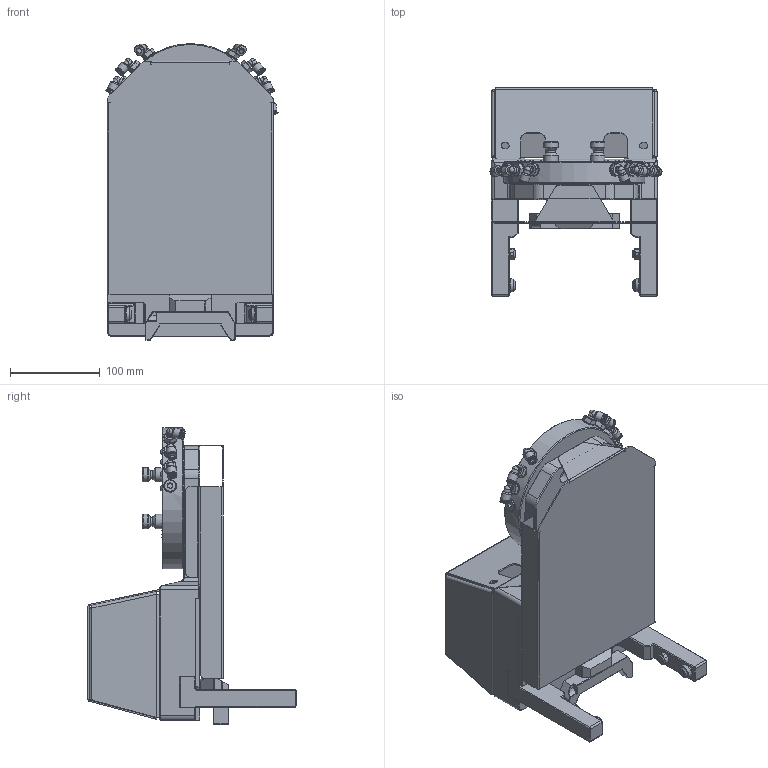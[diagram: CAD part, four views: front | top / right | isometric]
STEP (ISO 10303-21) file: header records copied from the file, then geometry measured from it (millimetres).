
FILE_DESCRIPTION (( 'STEP AP214' ), '1' );
FILE_NAME ('64855.STEP', '2025-09-26T11:46:03', ( '' ), ( '' ), 'SwSTEP 2.0', 'SolidWorks 2021', '' );
FILE_SCHEMA (( 'AUTOMOTIVE_DESIGN' ));
Length unit declared in the file: millimetre
Products named in the file (1): 64855
Bounding box: 191.37 x 231.63 x 330.27 mm (x, y, z)
Volume: 2346823.7 mm3; surface area: 665659.4 mm2
Topology: 53 solids, 53 shells, 2042 faces, 4840 edges, 2968 vertices
Faces by surface type: plane 919, cylinder 562, cone 386, bspline 85, torus 68, sphere 22
Full cylindrical faces by diameter (mm): 2.5 x4, 3 x4, 3.3 x18, 3.4 x10, 4 x1, 4.134 x22, 5 x5, 5.5 x5, 6 x7, 6.7 x8, 6.8 x10, 7 x11, 7.4 x1, 7.875 x7, 8 x8, 8.01 x1, 8.2 x1, 8.566 x8, 8.647 x1, 8.8 x1, 9 x6, 9.696 x7, 9.728 x8, 10 x4, 10.5 x7, 11.7 x2, 11.982 x4, 12 x4, 12.006 x4, 12.6 x14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
Entity records: 89271 total; most frequent: CARTESIAN_POINT 23037, DIRECTION 8878, ORIENTED_EDGE 8220, EDGE_CURVE 4110, AXIS2_PLACEMENT_3D 3431, VERTEX_POINT 2783, EDGE_LOOP 2767, FACE_OUTER_BOUND 2327
